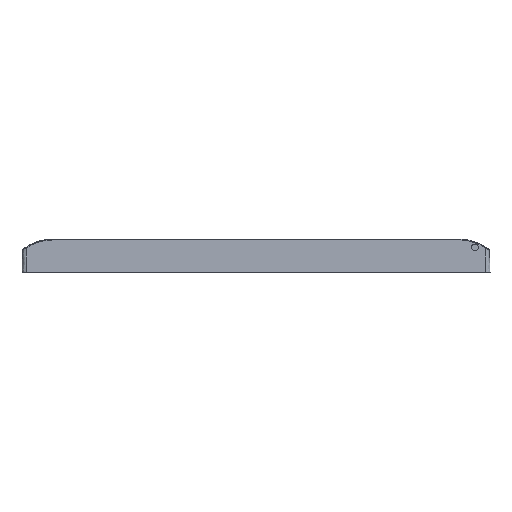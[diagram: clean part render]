
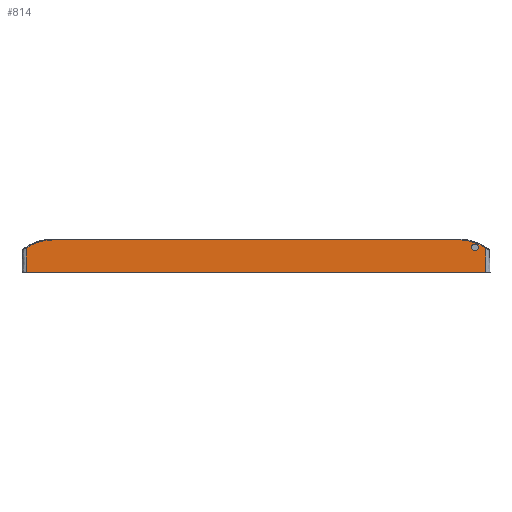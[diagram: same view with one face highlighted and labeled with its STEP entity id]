
A CAD part, top view. The second image highlights one B-rep face of the part: STEP entity #814.
In plain terms, the highlighted planar face has unit normal (0, 0.018, 1).
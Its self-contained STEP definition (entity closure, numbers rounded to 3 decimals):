
#225=FACE_BOUND('',#2459,.F.);
#312=PLANE('',#14501);
#814=ADVANCED_FACE('',(#225,#1631),#312,.T.);
#1631=FACE_OUTER_BOUND('',#2460,.F.);
#2459=EDGE_LOOP('',(#3547,#3548));
#2460=EDGE_LOOP('',(#3549,#3550,#3551,#3552,#3553,#3554));
#3547=ORIENTED_EDGE('',*,*,#10975,.F.);
#3548=ORIENTED_EDGE('',*,*,#10974,.F.);
#3549=ORIENTED_EDGE('',*,*,#11136,.F.);
#3550=ORIENTED_EDGE('',*,*,#11137,.F.);
#3551=ORIENTED_EDGE('',*,*,#11131,.T.);
#3552=ORIENTED_EDGE('',*,*,#11135,.T.);
#3553=ORIENTED_EDGE('',*,*,#11138,.F.);
#3554=ORIENTED_EDGE('',*,*,#11139,.F.);
#7673=LINE('',#20787,#9110);
#7677=LINE('',#20791,#9114);
#7678=LINE('',#20801,#9115);
#7679=LINE('',#20811,#9116);
#9110=VECTOR('',#15259,275.001);
#9114=VECTOR('',#15263,14.787);
#9115=VECTOR('',#15264,14.787);
#9116=VECTOR('',#15265,242.453);
#10508=B_SPLINE_CURVE_WITH_KNOTS('',3,(#19468,#19469,#19470,#19471,#19472,
#19473,#19474,#19475,#19476,#19477,#19478,#19479,#19480,#19481),.UNSPECIFIED.,
 .F.,.F.,(4,1,1,1,1,1,1,1,1,1,1,4),(0.,0.106,0.182,
0.273,0.364,0.455,0.545,0.636,
0.727,0.818,0.894,1.),.UNSPECIFIED.);
#10509=B_SPLINE_CURVE_WITH_KNOTS('',3,(#19482,#19483,#19484,#19485,#19486,
#19487,#19488,#19489,#19490,#19491,#19492,#19493,#19494,#19495),.UNSPECIFIED.,
 .F.,.F.,(4,1,1,1,1,1,1,1,1,1,1,4),(0.,0.106,0.182,
0.273,0.364,0.455,0.545,
0.636,0.727,0.818,0.894,1.),
 .UNSPECIFIED.);
#10604=B_SPLINE_CURVE_WITH_KNOTS('',3,(#20792,#20793,#20794,#20795,#20796,
#20797,#20798,#20799,#20800),.UNSPECIFIED.,.F.,.F.,(4,1,1,1,1,1,4),(0.,0.194,
0.333,0.5,0.667,0.806,
1.),.UNSPECIFIED.);
#10605=B_SPLINE_CURVE_WITH_KNOTS('',3,(#20802,#20803,#20804,#20805,#20806,
#20807,#20808,#20809,#20810),.UNSPECIFIED.,.F.,.F.,(4,1,1,1,1,1,4),(0.,0.194,
0.333,0.5,0.667,0.806,
1.),.UNSPECIFIED.);
#10974=EDGE_CURVE('',#14294,#14293,#10508,.T.);
#10975=EDGE_CURVE('',#14293,#14294,#10509,.T.);
#11131=EDGE_CURVE('',#14174,#14173,#7673,.T.);
#11135=EDGE_CURVE('',#14173,#14168,#7677,.T.);
#11136=EDGE_CURVE('',#14167,#14166,#10604,.T.);
#11137=EDGE_CURVE('',#14174,#14167,#7678,.T.);
#11138=EDGE_CURVE('',#14165,#14168,#10605,.T.);
#11139=EDGE_CURVE('',#14166,#14165,#7679,.T.);
#14165=VERTEX_POINT('',#19104);
#14166=VERTEX_POINT('',#19105);
#14167=VERTEX_POINT('',#19106);
#14168=VERTEX_POINT('',#19107);
#14173=VERTEX_POINT('',#19112);
#14174=VERTEX_POINT('',#19113);
#14293=VERTEX_POINT('',#19232);
#14294=VERTEX_POINT('',#19233);
#14501=AXIS2_PLACEMENT_3D('',#53651,#16653,#16654);
#15259=DIRECTION('',(-1.,0.,0.));
#15263=DIRECTION('',(0.017,1.,-0.017));
#15264=DIRECTION('',(-0.017,1.,-0.017));
#15265=DIRECTION('',(-1.,0.,0.));
#16653=DIRECTION('',(0.,0.017,1.));
#16654=DIRECTION('',(1.,0.,0.));
#19104=CARTESIAN_POINT('',(-121.227,19.509,84.659));
#19105=CARTESIAN_POINT('',(121.227,19.509,84.659));
#19106=CARTESIAN_POINT('',(137.242,14.783,84.742));
#19107=CARTESIAN_POINT('',(-137.242,14.783,84.742));
#19112=CARTESIAN_POINT('',(-137.5,0.,85.));
#19113=CARTESIAN_POINT('',(137.5,0.,85.));
#19232=CARTESIAN_POINT('',(130.647,16.969,84.704));
#19233=CARTESIAN_POINT('',(131.353,13.031,84.773));
#19468=CARTESIAN_POINT('',(131.353,13.031,84.773));
#19469=CARTESIAN_POINT('',(131.134,12.992,84.773));
#19470=CARTESIAN_POINT('',(130.749,12.988,84.773));
#19471=CARTESIAN_POINT('',(130.194,13.144,84.771));
#19472=CARTESIAN_POINT('',(129.726,13.423,84.766));
#19473=CARTESIAN_POINT('',(129.333,13.846,84.758));
#19474=CARTESIAN_POINT('',(129.076,14.362,84.749));
#19475=CARTESIAN_POINT('',(128.974,14.93,84.739));
#19476=CARTESIAN_POINT('',(129.036,15.504,84.729));
#19477=CARTESIAN_POINT('',(129.258,16.036,84.72));
#19478=CARTESIAN_POINT('',(129.6,16.46,84.713));
#19479=CARTESIAN_POINT('',(130.066,16.8,84.707));
#19480=CARTESIAN_POINT('',(130.428,16.929,84.704));
#19481=CARTESIAN_POINT('',(130.647,16.969,84.704));
#19482=CARTESIAN_POINT('',(130.647,16.969,84.704));
#19483=CARTESIAN_POINT('',(130.866,17.008,84.703));
#19484=CARTESIAN_POINT('',(131.251,17.012,84.703));
#19485=CARTESIAN_POINT('',(131.806,16.856,84.706));
#19486=CARTESIAN_POINT('',(132.274,16.577,84.711));
#19487=CARTESIAN_POINT('',(132.667,16.154,84.718));
#19488=CARTESIAN_POINT('',(132.924,15.638,84.727));
#19489=CARTESIAN_POINT('',(133.026,15.07,84.737));
#19490=CARTESIAN_POINT('',(132.964,14.496,84.747));
#19491=CARTESIAN_POINT('',(132.742,13.964,84.756));
#19492=CARTESIAN_POINT('',(132.4,13.54,84.764));
#19493=CARTESIAN_POINT('',(131.934,13.2,84.77));
#19494=CARTESIAN_POINT('',(131.572,13.071,84.772));
#19495=CARTESIAN_POINT('',(131.353,13.031,84.773));
#20787=CARTESIAN_POINT('',(137.5,0.,85.));
#20791=CARTESIAN_POINT('',(-137.5,0.,85.));
#20792=CARTESIAN_POINT('',(137.242,14.783,84.742));
#20793=CARTESIAN_POINT('',(136.321,15.378,84.732));
#20794=CARTESIAN_POINT('',(134.685,16.311,84.715));
#20795=CARTESIAN_POINT('',(132.109,17.469,84.695));
#20796=CARTESIAN_POINT('',(129.589,18.346,84.68));
#20797=CARTESIAN_POINT('',(126.997,18.978,84.669));
#20798=CARTESIAN_POINT('',(124.204,19.404,84.661));
#20799=CARTESIAN_POINT('',(122.324,19.509,84.659));
#20800=CARTESIAN_POINT('',(121.227,19.509,84.659));
#20801=CARTESIAN_POINT('',(137.5,0.,85.));
#20802=CARTESIAN_POINT('',(-121.227,19.509,84.659));
#20803=CARTESIAN_POINT('',(-122.324,19.509,84.659));
#20804=CARTESIAN_POINT('',(-124.204,19.404,84.661));
#20805=CARTESIAN_POINT('',(-126.997,18.978,84.669));
#20806=CARTESIAN_POINT('',(-129.589,18.346,84.68));
#20807=CARTESIAN_POINT('',(-132.109,17.469,84.695));
#20808=CARTESIAN_POINT('',(-134.685,16.311,84.715));
#20809=CARTESIAN_POINT('',(-136.321,15.378,84.732));
#20810=CARTESIAN_POINT('',(-137.242,14.783,84.742));
#20811=CARTESIAN_POINT('',(121.227,19.509,84.659));
#53651=CARTESIAN_POINT('',(-151.25,-13.748,85.24));
